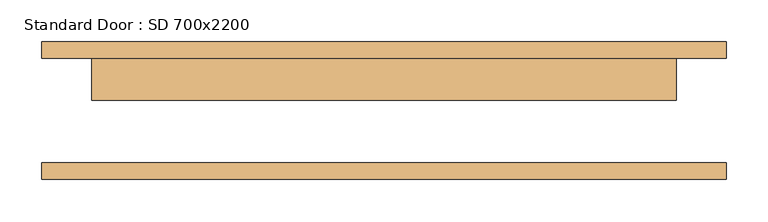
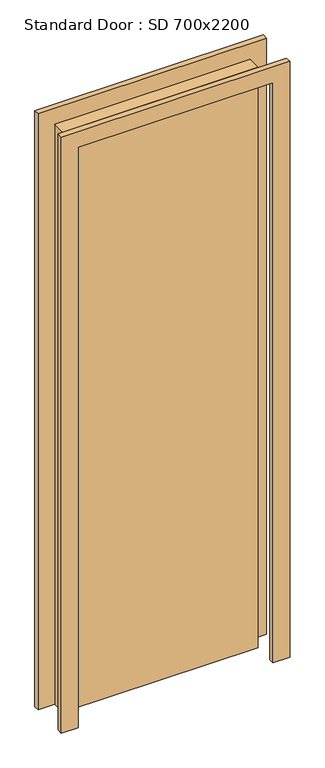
"""IFC4 building model written with IfcOpenShell, lengths in millimetres: door geometry, Standard Door : SD 700x2200."""

from ifc_helpers import new_model, si_unit, frame, origin, origin_with_axes, place, context, project, spatial, polyline, outline, extrude, source, transform, mapped, element, save


def standard_door_sd_700x2200_29d45fe6(model_context):
    return source(origin(), model_context, "Body", "SweptSolid", [
        extrude(outline(polyline([(2260.0, -410.0), (0.0, -410.0), (0.0, -350.0), (2200.0, -350.0), (2200.0, 350.0), (0.0, 350.0), (0.0, 410.0), (2260.0, 410.0), (2260.0, -410.0)])), frame((0.0, 62.5, 0.0), z_axis=(0.0, 1.0, 0.0), x_axis=(0.0, 0.0, 1.0)), (0.0, 0.0, 1.0), 20.0),
        extrude(outline(polyline([(2260.0, 410.0), (2260.0, -410.0), (0.0, -410.0), (0.0, -350.0), (2200.0, -350.0), (2200.0, 350.0), (0.0, 350.0), (0.0, 410.0), (2260.0, 410.0)])), frame((0.0, -82.5, 0.0), z_axis=(0.0, 1.0, 0.0), x_axis=(0.0, 0.0, 1.0)), (0.0, 0.0, 1.0), 20.0),
        extrude(outline(polyline([(350.0, 12.5), (-350.0, 12.5), (-350.0, 62.5), (350.0, 62.5), (350.0, 12.5)])), origin_with_axes(), (0.0, 0.0, 1.0), 2200.0),
    ])


if __name__ == "__main__":
    model = new_model("IFC4")
    model_context = context("Model", 3, world=origin())
    ifc_project = project(units=[si_unit("LENGTHUNIT", "METRE", prefix="MILLI")], contexts=[model_context])
    site = spatial("IfcSite", under=ifc_project)
    building = spatial("IfcBuilding", under=site)
    placement = place(None, origin())
    standard_door_sd_700x2200_shape = standard_door_sd_700x2200_29d45fe6(model_context)
    element("IfcDoor", 1, ObjectType="Standard Door : SD 700x2200", at=placement, inside=building, context=model_context, shape_type="MappedRepresentation", body=[
        mapped(standard_door_sd_700x2200_shape, transform((0.0, 0.0, 0.0), x_axis=(1.0, 0.0, 0.0), y_axis=(0.0, 1.0, 0.0), z_axis=(0.0, 0.0, 1.0))),
    ])
    save(model, "model.ifc")
